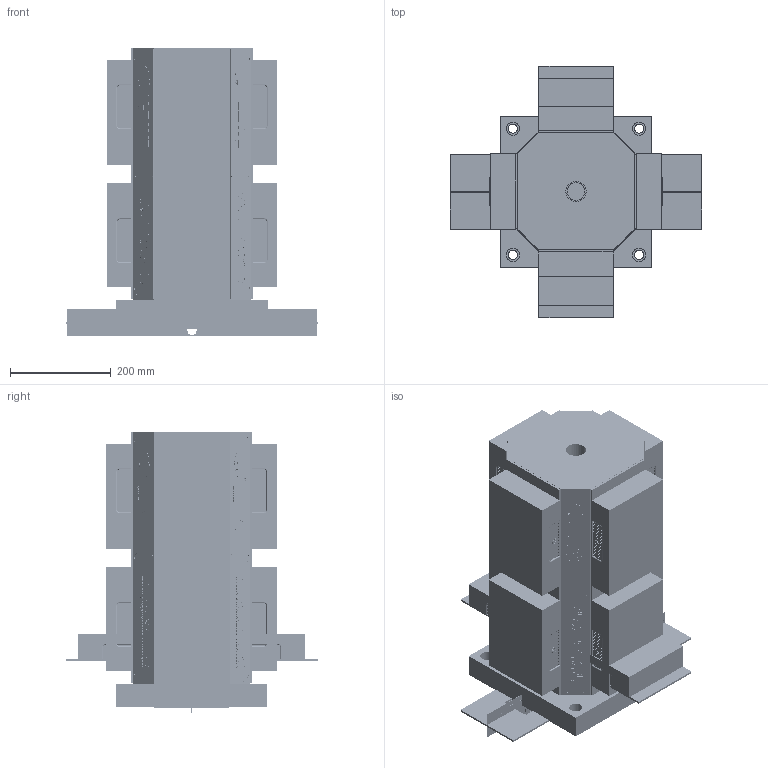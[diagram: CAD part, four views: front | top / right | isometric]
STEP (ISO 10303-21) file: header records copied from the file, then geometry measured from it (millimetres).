
FILE_DESCRIPTION( ( 'Unknown' ), '1' );
FILE_NAME( 's:/Solid Edge/給客戶的CD-3D/ALV-3D/ALV-1550/ALV-1550-組件/ALV-1550-C-1.stp', 'Unknown', ( 'S.C.H' ), ( 'Unknown' ), 'XStep 1.0', 'Unknown', ' ' );
FILE_SCHEMA( ( 'CONFIG_CONTROL_DESIGN' ) );
Length unit declared in the file: millimetre
Products named in the file (20): Assem1; Assem2; Assem3; 1; 2; 3; 4; 5; 6; 7; 8; 9; 10; 11; 12; 13; 14; 15; 16; 17
Bounding box: 498 x 498 x 572.47 mm (x, y, z)
Volume: 77025468.8 mm3; surface area: 4051864.7 mm2
Topology: 105 solids, 105 shells, 11189 faces, 29028 edges, 19326 vertices
Faces by surface type: plane 7163, cylinder 2355, extrusion 1615, torus 48, cone 8
Full cylindrical faces by diameter (mm): 4.83 x5, 5.053 x5, 16 x8, 18 x16, 26 x16, 35 x2, 40 x4
Entity records: 51693 total; most frequent: CARTESIAN_POINT 14000, ORIENTED_EDGE 7904, DIRECTION 6612, EDGE_CURVE 3952, VECTOR 3120, LINE 2797, VERTEX_POINT 2654, AXIS2_PLACEMENT_3D 1746
